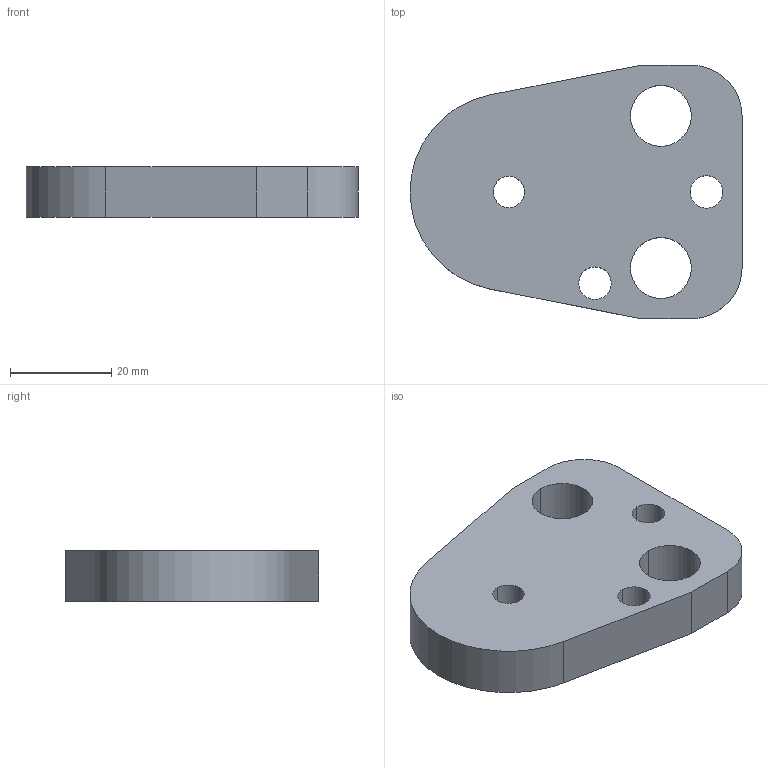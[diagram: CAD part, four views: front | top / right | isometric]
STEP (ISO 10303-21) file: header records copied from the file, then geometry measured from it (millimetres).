
FILE_DESCRIPTION(/* description */ (''),/* implementation_level */ '2;1');
FILE_NAME(/* name */ '3d_bpc25-10_03400_r00.stp',/* time_stamp */ '2011-01-10T14:17:10+09:00',/* author */ ('MISUMI'),/* organization */ (''),/* preprocessor_version */ 'ST-DEVELOPER v11',/* originating_system */ 'UGS - NX 5.0',/* authorisation */ '');
FILE_SCHEMA (('CONFIG_CONTROL_DESIGN'));
Length unit declared in the file: millimetre
Products named in the file (1): 3d_bpc25-10_03400_r00
Bounding box: 65.5 x 50 x 10 mm (x, y, z)
Volume: 24013.5 mm3; surface area: 8111.3 mm2
Topology: 1 solids, 1 shells, 20 faces, 54 edges, 36 vertices
Faces by surface type: cylinder 13, plane 7
Entity records: 750 total; most frequent: DIRECTION 122, CARTESIAN_POINT 111, ORIENTED_EDGE 108, EDGE_CURVE 54, AXIS2_PLACEMENT_3D 47, VERTEX_POINT 36, EDGE_LOOP 30, LINE 28
